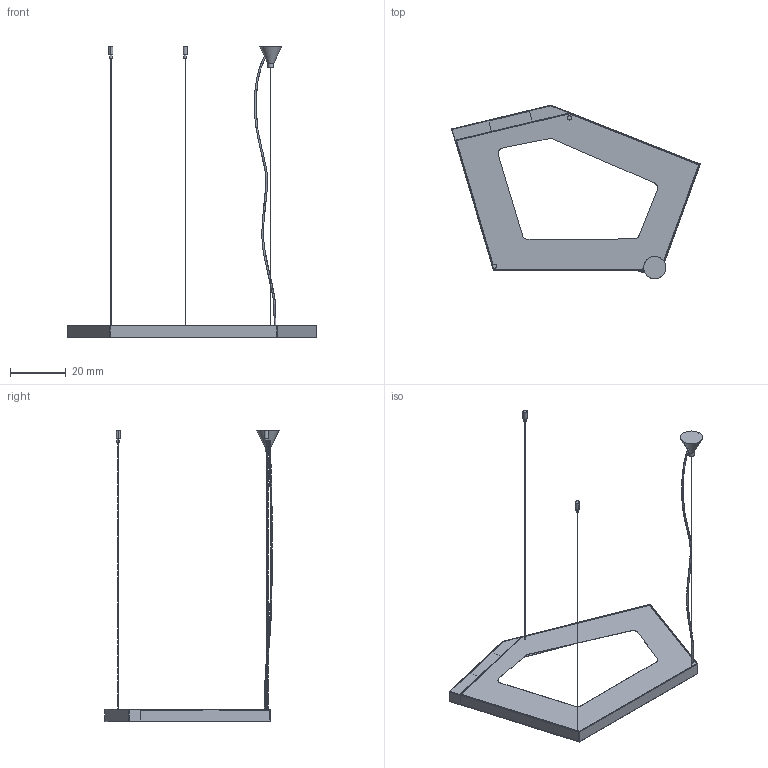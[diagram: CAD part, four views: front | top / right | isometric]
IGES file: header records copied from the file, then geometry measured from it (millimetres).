
Start section: SolidWorks IGES file using analytic representation for surfaces
Global section: file name: C:\Users\libre2.DOMINIO\Desktop\CARPYEN\3D\CLARIANA\NURA1_pendant.IGS; native system: SolidWorks 2014; preprocessor: SolidWorks 2014; author: libre2; date: 160314.103129; units: millimetre
Bounding box: 89.1 x 62.35 x 104.42 mm (x, y, z)
Surface area: 12901.2 mm2 (no closed solid volume)
Topology: 0 solids, 0 shells, 146 faces, 1244 edges, 1242 vertices
Faces by surface type: revolution 74, bspline 72
